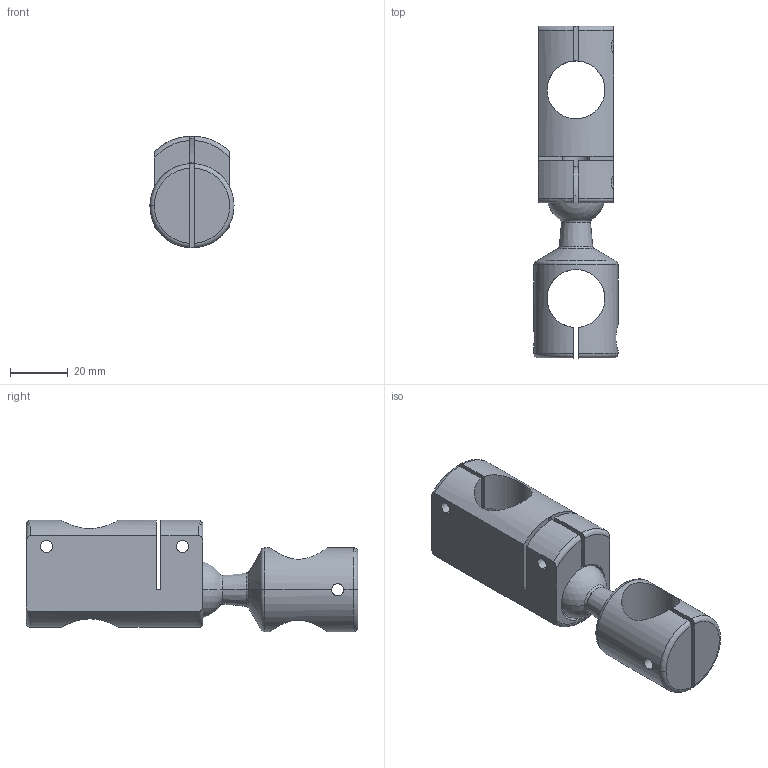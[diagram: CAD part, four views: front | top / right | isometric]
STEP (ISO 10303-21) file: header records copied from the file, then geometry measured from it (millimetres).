
FILE_DESCRIPTION (( 'STEP AP214' ), '1' );
FILE_NAME ('SBC363Q.STEP', '2025-07-23T01:46:18', ( '' ), ( '' ), 'SwSTEP 2.0', 'SolidWorks 2024', '' );
FILE_SCHEMA (( 'AUTOMOTIVE_DESIGN' ));
Length unit declared in the file: millimetre
Products named in the file (3): SBC20-001_Copy of ﾃﾞﾌｫﾙﾄ; SBC363Q; SBC20-863
Assembly tree (2 placements, depth 2):
  SBC363Q
    SBC20-001_Copy of ﾃﾞﾌｫﾙﾄ
    SBC20-863
Bounding box: 29 x 114.5 x 38.5 mm (x, y, z)
Volume: 50081.9 mm3; surface area: 20855.6 mm2
Topology: 2 solids, 2 shells, 100 faces, 274 edges, 173 vertices
Faces by surface type: cylinder 46, plane 23, torus 17, cone 10, sphere 4
Entity records: 3888 total; most frequent: CARTESIAN_POINT 1298, DIRECTION 545, ORIENTED_EDGE 526, EDGE_CURVE 263, AXIS2_PLACEMENT_3D 221, VERTEX_POINT 166, CIRCLE 116, EDGE_LOOP 113
